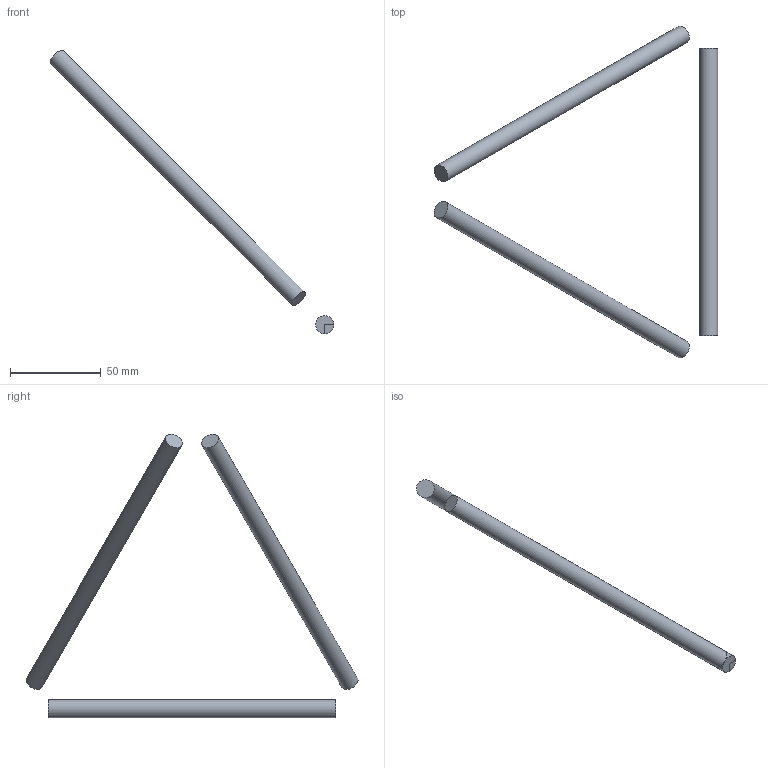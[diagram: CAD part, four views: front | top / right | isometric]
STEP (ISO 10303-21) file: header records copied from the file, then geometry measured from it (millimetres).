
FILE_DESCRIPTION(/* description */ (''),/* implementation_level */ '2;1');
FILE_NAME(/* name */ 'M:\Symbolen_NIEUW\STP\Corners\E20D\E20D-C006_260031683.stp',/* time_stamp */ '2017-11-16T14:51:25+01:00',/* author */ ('Kees'),/* organization */ (''),/* preprocessor_version */ 'ST-DEVELOPER v16.13',/* originating_system */ 'Autodesk Inventor 2018',/* authorisation */ '');
FILE_SCHEMA (('AUTOMOTIVE_DESIGN { 1 0 10303 214 3 1 1 }'));
Length unit declared in the file: millimetre
Products named in the file (1): 260031683
Bounding box: 156.08 x 182.63 x 156.08 mm (x, y, z)
Volume: 44296.5 mm3; surface area: 18189.8 mm2
Topology: 3 solids, 3 shells, 11 faces, 15 edges, 10 vertices
Faces by surface type: plane 8, cylinder 3
Full cylindrical faces by diameter (mm): 10 x3
Entity records: 292 total; most frequent: DIRECTION 44, CARTESIAN_POINT 34, ORIENTED_EDGE 24, AXIS2_PLACEMENT_3D 20, EDGE_LOOP 14, STYLED_ITEM 14, EDGE_CURVE 12, FACE_OUTER_BOUND 11
